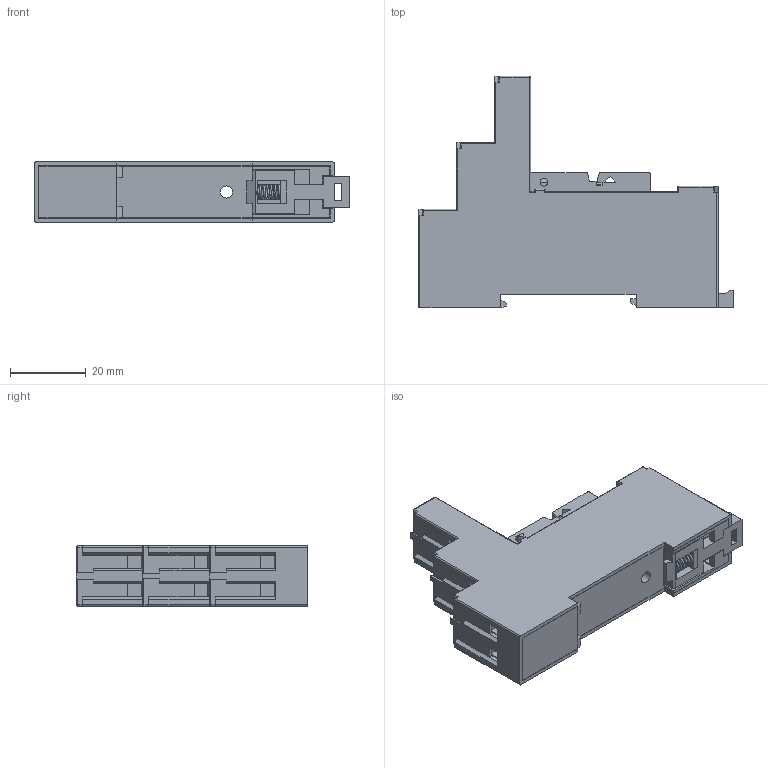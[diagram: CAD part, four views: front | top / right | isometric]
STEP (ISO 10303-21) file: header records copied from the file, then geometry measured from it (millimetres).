
FILE_DESCRIPTION(/* description */ ('Unknown'),/* implementation_level */ '2;1');
FILE_NAME(/* name */ '95.05',/* time_stamp */ '2016-07-05T14:01:32+02:00',/* author */ ('Unknown'),/* organization */ ('Unknown'),/* preprocessor_version */ 'ST-DEVELOPER v16',/* originating_system */ 'DEX',/* authorisation */ $);
FILE_SCHEMA (('AP242_MANAGED_MODEL_BASED_3D_ENGINEERING_MIM_LF { 1 0 10303 442 1 1 4 }','AUTOMOTIVE_DESIGN {1 0 10303 214 3 1 1}'));
Length unit declared in the file: millimetre
Products named in the file (7): 95.05; EF00625; EF00137; Assieme morsetto+vite; EF00175-B non completo; EF00345-M3
Assembly tree (13 placements, depth 3):
  95.05
    95.05
    EF00625
    EF00137
    Assieme morsetto+vite  x8
      EF00175-B non completo
      EF00345-M3
Bounding box: 82.8 x 60.9 x 15.8 mm (x, y, z)
Volume: 38629.7 mm3; surface area: 21676 mm2
Topology: 19 solids, 19 shells, 812 faces, 2093 edges, 1347 vertices
Faces by surface type: plane 679, cylinder 114, sphere 10, cone 8, bspline 1
Full cylindrical faces by diameter (mm): 2 x3, 2.2 x8, 2.6 x8, 3 x16, 3.2 x1, 4.7 x8, 5 x8
Entity records: 17230 total; most frequent: CARTESIAN_POINT 4273, ORIENTED_EDGE 2654, DIRECTION 2526, EDGE_CURVE 1327, LINE 1186, VECTOR 1186, VERTEX_POINT 869, AXIS2_PLACEMENT_3D 670
